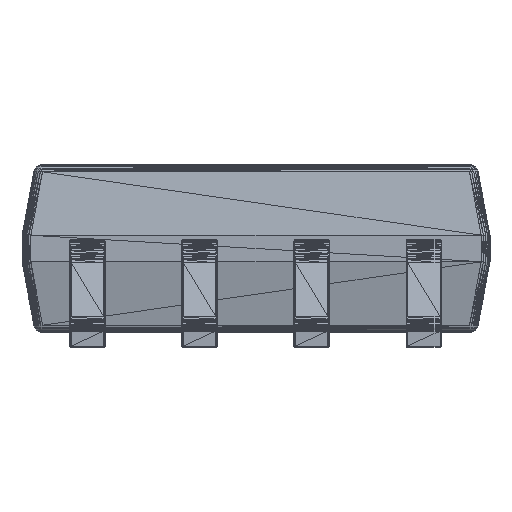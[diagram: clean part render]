
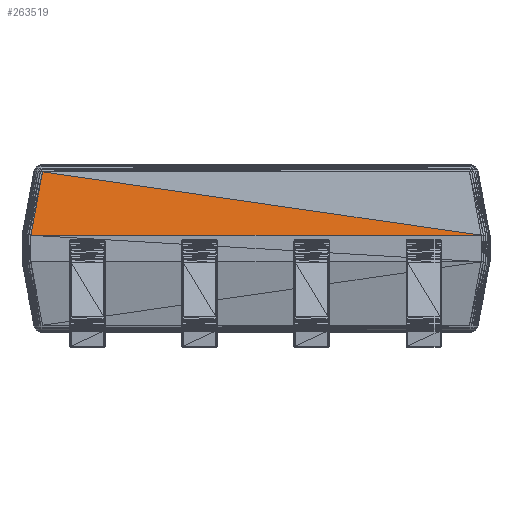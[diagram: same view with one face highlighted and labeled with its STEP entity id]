
A CAD part, front view. The second image highlights one B-rep face of the part: STEP entity #263519.
In plain terms, the highlighted planar face has unit normal (0, -0.983, 0.184).
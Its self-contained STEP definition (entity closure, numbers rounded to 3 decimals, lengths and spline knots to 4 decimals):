
#16606=DIRECTION('',(-1.0,0.0,0.0));
#16607=VECTOR('',#16606,1000.0);
#256004=CARTESIAN_POINT('',(2.55,-2.65,1.2));
#256005=VERTEX_POINT('',#256004);
#256006=CARTESIAN_POINT('',(-2.55,-2.65,1.2));
#256007=VERTEX_POINT('',#256006);
#256072=CARTESIAN_POINT('',(-2.417,-2.5153,1.9184));
#256073=VERTEX_POINT('',#256072);
#262984=LINE('',#256004,#16607);
#262985=EDGE_CURVE('',#256005,#256007,#262984,.T.);
#263492=DIRECTION('',(0.989,-0.027,-0.143));
#263493=VECTOR('',#263492,1000.0);
#263494=LINE('',#256072,#263493);
#263495=EDGE_CURVE('',#256073,#256005,#263494,.T.);
#263506=DIRECTION('',(-0.179,-0.181,-0.967));
#263507=VECTOR('',#263506,1000.0);
#263508=LINE('',#256072,#263507);
#263509=EDGE_CURVE('',#256073,#256007,#263508,.T.);
#263510=ORIENTED_EDGE('',*,*,#263495,.F.);
#263511=ORIENTED_EDGE('',*,*,#263509,.T.);
#263512=ORIENTED_EDGE('',*,*,#262985,.F.);
#263513=DIRECTION('',(0.0,-0.983,0.184));
#263514=DIRECTION('',(-0.989,0.027,0.143));
#263515=AXIS2_PLACEMENT_3D('',#256004,#263513,#263514);
#263516=PLANE('',#263515);
#263517=EDGE_LOOP('',(#263510,#263511,#263512));
#263518=FACE_BOUND('',#263517,.T.);
#263519=ADVANCED_FACE('',(#263518),#263516,.T.);
